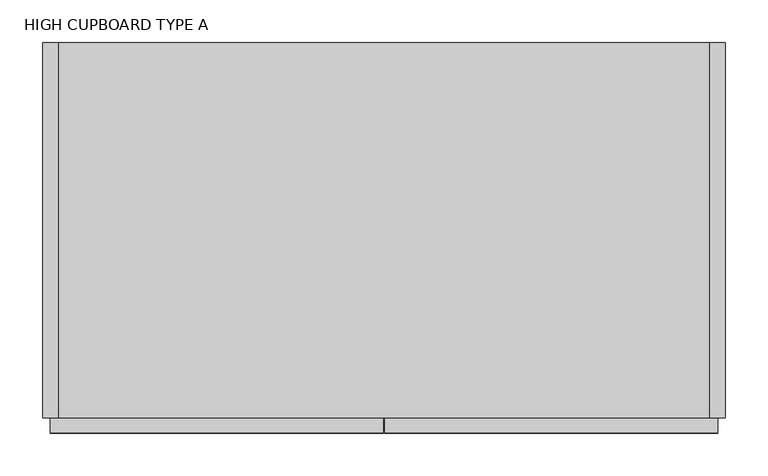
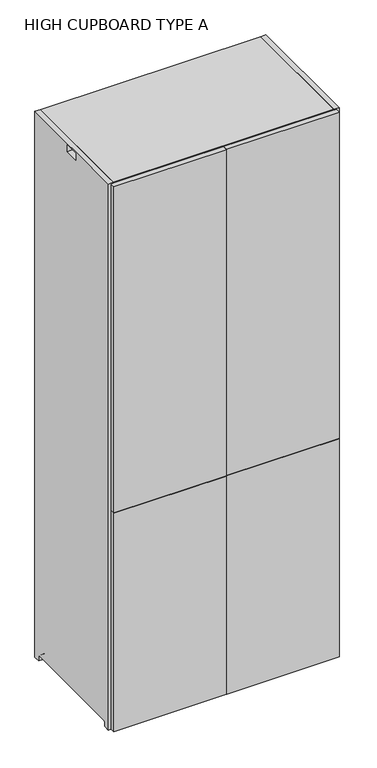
"""IFC4 building model written with IfcOpenShell, lengths in millimetres: furniture geometry, HIGH CUPBOARD TYPE A : 800mmW_High_Cupboad-TypeA."""

from ifc_helpers import new_model, si_unit, point, frame, frame_2d, origin, place, context, project, spatial, polyline, circle_curve, trimmed, segment, composite_curve, outline, extrude, faceted_brep, source, transform, mapped, element, save
from ifc_brep_helpers import plane_surface, revolved_surface, advanced_brep


def high_cupboard_type_a_de7f029c(model_context):
    return source(origin(), model_context, "Body", "SolidModel", [
        extrude(outline(composite_curve([segment(polyline([(-220.0, 2000.0), (220.0, 2000.0), (220.0, 0.0), (198.0, 0.0), (198.0, 17.0)]), True, "CONTINUOUS"), segment(trimmed(circle_curve(frame_2d((194.0, 17.0)), 4.0), [point((198.0, 17.0))], [point((194.0, 21.0))], True, "CARTESIAN"), True, "CONTINUOUS"), segment(polyline([(194.0, 21.0), (-194.0, 21.0)]), True, "CONTINUOUS"), segment(trimmed(circle_curve(frame_2d((-194.0, 17.0)), 4.0), [point((-194.0, 21.0))], [point((-198.0, 17.0))], True, "CARTESIAN"), True, "CONTINUOUS"), segment(polyline([(-198.0, 17.0), (-198.0, 0.0), (-220.0, 0.0), (-220.0, 2000.0)]), True, "CONTINUOUS")], self_intersect=False), holes=[polyline([(-26.0, 1995.0), (-26.0, 1970.0), (26.0, 1970.0), (26.0, 1995.0), (-26.0, 1995.0)])]), frame((-400.0, 0.0, 0.0), z_axis=(1.0, 0.0, 0.0), x_axis=(0.0, 1.0, 0.0)), (0.0, 0.0, 1.0), 18.0),
        advanced_brep(
        [(382.0, 220.0, 18.0), (-382.0, 220.0, 18.0), (-382.0, 197.8729833, 18.0), (-376.1019215, 197.8729833, 18.0), (-376.1019215, -197.8729833, 18.0), (-382.0, -197.8729833, 18.0), (-382.0, -220.0, 18.0), (382.0, -220.0, 18.0), (382.0, 220.0, 0.0), (382.0, -220.0, 0.0), (-382.0, -220.0, 0.0), (-382.0, -198.0, 0.0), (-376.1019215, -198.0, 0.0), (-376.1019215, 198.0, 0.0), (-382.0, 198.0, 0.0), (-382.0, 220.0, 0.0), (-382.0, 198.0, 17.0), (-382.0, -198.0, 17.0), (-376.1019215, 198.0, 17.0), (-376.1019215, -198.0, 17.0)],
        [
            (0, 1),
            (1, 2),
            (2, 3),
            (3, 4),
            (4, 5),
            (5, 6),
            (6, 7),
            (7, 0),
            (8, 9),
            (9, 10),
            (10, 11),
            (11, 12),
            (12, 13),
            (13, 14),
            (14, 15),
            (15, 8),
            (0, 8),
            (15, 1),
            (14, 16),
            (16, 2, circle_curve(frame((-382.0, 194.0, 17.0), z_axis=(1.0, 0.0, 0.0), x_axis=(0.0, 1.0, 0.0)), 4.0)),
            (10, 6),
            (5, 17, circle_curve(frame((-382.0, -194.0, 17.0), z_axis=(1.0, 0.0, 0.0), x_axis=(0.0, 1.0, 0.0)), 4.0)),
            (17, 11),
            (9, 7),
            (18, 13),
            (12, 19),
            (19, 4, circle_curve(frame((-376.1019215, -194.0, 17.0), z_axis=(-1.0, 0.0, 0.0), x_axis=(0.0, 1.0, 0.0)), 4.0)),
            (3, 18, circle_curve(frame((-376.1019215, 194.0, 17.0), z_axis=(-1.0, 0.0, 0.0), x_axis=(0.0, 1.0, 0.0)), 4.0)),
            (19, 17),
            (18, 16),
        ],
        [
            plane_surface(frame((-382.0, 220.0, 18.0), z_axis=(0.0, 0.0, 1.0), x_axis=(-1.0, 0.0, 0.0))),
            plane_surface(frame((-382.0, 220.0, 0.0), z_axis=(0.0, 0.0, -1.0), x_axis=(1.0, 0.0, 0.0))),
            plane_surface(frame((382.0, 220.0, 18.0), z_axis=(0.0, 1.0, 0.0), x_axis=(0.0, 0.0, -1.0))),
            plane_surface(frame((-382.0, 220.0, 18.0), z_axis=(-1.0, 0.0, 0.0), x_axis=(0.0, 0.0, -1.0))),
            plane_surface(frame((-382.0, -220.0, 18.0), z_axis=(0.0, -1.0, 0.0), x_axis=(0.0, 0.0, -1.0))),
            plane_surface(frame((382.0, -220.0, 18.0), z_axis=(1.0, 0.0, 0.0), x_axis=(0.0, 0.0, -1.0))),
            plane_surface(frame((-376.1019215, -190.0, 17.0), z_axis=(-1.0, 0.0, 0.0), x_axis=(0.0, 0.0, 1.0))),
            revolved_surface(polyline([(-376.1019215, -190.0, 17.0), (-382.0, -190.0, 17.0)]), (-406.0458228, -194.0, 17.0), (1.0, 0.0, 0.0)),
            plane_surface(frame((-376.1019215, -198.0, 17.0), z_axis=(0.0, 1.0, 0.0), x_axis=(-1.0, 0.0, 0.0))),
            plane_surface(frame((-376.1019215, 198.0, 0.0), z_axis=(0.0, -1.0, 0.0), x_axis=(-1.0, 0.0, 0.0))),
            revolved_surface(polyline([(-376.1019215, 198.0, 17.0), (-382.0, 198.0, 17.0)]), (-406.0458228, 194.0, 17.0), (1.0, 0.0, 0.0)),
        ],
        [
            (0, [[1, 2, 3, 4, 5, 6, 7, 8]]),
            (1, [[9, 10, 11, 12, 13, 14, 15, 16]]),
            (2, [[-1, 17, -16, 18]]),
            (3, [[-18, -15, 19, 20, -2]]),
            (3, [[21, -6, 22, 23, -11]]),
            (4, [[-7, -21, -10, 24]]),
            (5, [[-8, -24, -9, -17]]),
            (6, [[25, -13, 26, 27, -4, 28]]),
            (7, [[-27, 29, -22, -5]]),
            (8, [[-26, -12, -23, -29]]),
            (9, [[-25, 30, -19, -14]]),
            (10, [[-28, -3, -20, -30]]),
        ],
    ),
        extrude(outline(composite_curve([segment(polyline([(-220.0, 2000.0), (220.0, 2000.0), (220.0, 0.0), (198.0, 0.0), (198.0, 17.0)]), True, "CONTINUOUS"), segment(trimmed(circle_curve(frame_2d((194.0, 17.0)), 4.0), [point((198.0, 17.0))], [point((194.0, 21.0))], True, "CARTESIAN"), True, "CONTINUOUS"), segment(polyline([(194.0, 21.0), (-194.0, 21.0)]), True, "CONTINUOUS"), segment(trimmed(circle_curve(frame_2d((-194.0, 17.0)), 4.0), [point((-194.0, 21.0))], [point((-198.0, 17.0))], True, "CARTESIAN"), True, "CONTINUOUS"), segment(polyline([(-198.0, 17.0), (-198.0, 0.0), (-220.0, 0.0), (-220.0, 2000.0)]), True, "CONTINUOUS")], self_intersect=False), holes=[polyline([(-26.0, 1995.0), (-26.0, 1970.0), (26.0, 1970.0), (26.0, 1995.0), (-26.0, 1995.0)])]), frame((382.0, 0.0, 0.0), z_axis=(1.0, 0.0, 0.0), x_axis=(0.0, 1.0, 0.0)), (0.0, 0.0, 1.0), 18.0),
        extrude(outline(polyline([(382.0, 220.0), (382.0, 202.0), (-382.0, 202.0), (-382.0, 220.0), (382.0, 220.0)])), frame((0.0, 0.0, 18.0), z_axis=(0.0, 0.0, 1.0), x_axis=(1.0, 0.0, 0.0)), (0.0, 0.0, 1.0), 1964.0),
        extrude(outline(polyline([(382.0, 202.0), (382.0, -220.0), (-382.0, -220.0), (-382.0, 202.0), (382.0, 202.0)])), frame((0.0, 0.0, 398.5), z_axis=(0.0, 0.0, 1.0), x_axis=(1.0, 0.0, 0.0)), (0.0, 0.0, 1.0), 18.0),
        extrude(outline(polyline([(382.0, 202.0), (382.0, -220.0), (-382.0, -220.0), (-382.0, 202.0), (382.0, 202.0)])), frame((0.0, 0.0, 793.5), z_axis=(0.0, 0.0, 1.0), x_axis=(1.0, 0.0, 0.0)), (0.0, 0.0, 1.0), 18.0),
        extrude(outline(polyline([(382.0, 202.0), (382.0, -220.0), (-382.0, -220.0), (-382.0, 202.0), (382.0, 202.0)])), frame((0.0, 0.0, 1188.5), z_axis=(0.0, 0.0, 1.0), x_axis=(1.0, 0.0, 0.0)), (0.0, 0.0, 1.0), 18.0),
        extrude(outline(polyline([(382.0, 202.0), (382.0, -220.0), (-382.0, -220.0), (-382.0, 202.0), (382.0, 202.0)])), frame((0.0, 0.0, 1583.5), z_axis=(0.0, 0.0, 1.0), x_axis=(1.0, 0.0, 0.0)), (0.0, 0.0, 1.0), 18.0),
        extrude(outline(polyline([(9.0, 202.0), (9.0, -220.0), (-9.0, -220.0), (-9.0, 202.0), (9.0, 202.0)])), frame((0.0, 0.0, 18.0), z_axis=(0.0, 0.0, 1.0), x_axis=(1.0, 0.0, 0.0)), (0.0, 0.0, 1.0), 1964.0),
        extrude(outline(polyline([(391.0, -220.0), (391.0, -238.0), (1.0, -238.0), (1.0, -220.0), (391.0, -220.0)])), frame((0.0, 0.0, 2.0), z_axis=(0.0, 0.0, 1.0), x_axis=(1.0, 0.0, 0.0)), (0.0, 0.0, 1.0), 799.5),
        extrude(outline(polyline([(391.0, -220.0), (391.0, -238.0), (1.0, -238.0), (1.0, -220.0), (391.0, -220.0)])), frame((0.0, 0.0, 803.5), z_axis=(0.0, 0.0, 1.0), x_axis=(1.0, 0.0, 0.0)), (0.0, 0.0, 1.0), 1194.5),
        extrude(outline(polyline([(-391.0, -220.0), (-1.0, -220.0), (-1.0, -238.0), (-391.0, -238.0), (-391.0, -220.0)])), frame((0.0, 0.0, 2.0), z_axis=(0.0, 0.0, 1.0), x_axis=(1.0, 0.0, 0.0)), (0.0, 0.0, 1.0), 799.5),
        extrude(outline(polyline([(-391.0, -220.0), (-1.0, -220.0), (-1.0, -238.0), (-391.0, -238.0), (-391.0, -220.0)])), frame((0.0, 0.0, 803.5), z_axis=(0.0, 0.0, 1.0), x_axis=(1.0, 0.0, 0.0)), (0.0, 0.0, 1.0), 1194.5),
        faceted_brep([(382.0, 220.0, 2000.0), (-382.0, 220.0, 2000.0), (-382.0, -220.0, 2000.0), (382.0, -220.0, 2000.0), (382.0, -220.0, 1982.0), (-382.0, -220.0, 1982.0), (-382.0, -26.0, 1982.0), (-376.1019215, -26.0, 1982.0), (-376.1019215, 26.0, 1982.0), (-382.0, 26.0, 1982.0), (-382.0, 220.0, 1982.0), (382.0, 220.0, 1982.0), (382.0, 26.0, 1982.0), (375.9541772, 26.0, 1982.0), (375.9541772, -26.0, 1982.0), (382.0, -26.0, 1982.0), (-382.0, 26.0, 1995.0), (-382.0, -26.0, 1995.0), (382.0, -26.0, 1995.0), (382.0, 26.0, 1995.0), (375.9541772, 26.0, 1995.0), (375.9541772, -26.0, 1995.0), (-376.1019215, -26.0, 1995.0), (-376.1019215, 26.0, 1995.0)], [[[0, 1, 2, 3]], [[4, 5, 6, 7, 8, 9, 10, 11, 12, 13, 14, 15]], [[1, 0, 11, 10]], [[2, 1, 10, 9, 16, 17, 6, 5]], [[3, 2, 5, 4]], [[0, 3, 4, 15, 18, 19, 12, 11]], [[20, 21, 14, 13]], [[14, 21, 18, 15]], [[20, 13, 12, 19]], [[21, 20, 19, 18]], [[22, 23, 8, 7]], [[22, 7, 6, 17]], [[8, 23, 16, 9]], [[23, 22, 17, 16]]]),
    ])


if __name__ == "__main__":
    model = new_model("IFC4")
    model_context = context("Model", 3, world=origin())
    ifc_project = project(units=[si_unit("LENGTHUNIT", "METRE", prefix="MILLI")], contexts=[model_context])
    site = spatial("IfcSite", under=ifc_project)
    building = spatial("IfcBuilding", under=site)
    placement = place(None, origin())
    high_cupboard_type_a_shape = high_cupboard_type_a_de7f029c(model_context)
    element("IfcFurniture", 1, ObjectType="HIGH CUPBOARD TYPE A : 800mmW_High_Cupboad-TypeA", at=placement, inside=building, context=model_context, shape_type="MappedRepresentation", body=[
        mapped(high_cupboard_type_a_shape, transform((0.0, 0.0, 0.0), x_axis=(1.0, 0.0, 0.0), y_axis=(0.0, 1.0, 0.0), z_axis=(0.0, 0.0, 1.0))),
    ])
    save(model, "model.ifc")
